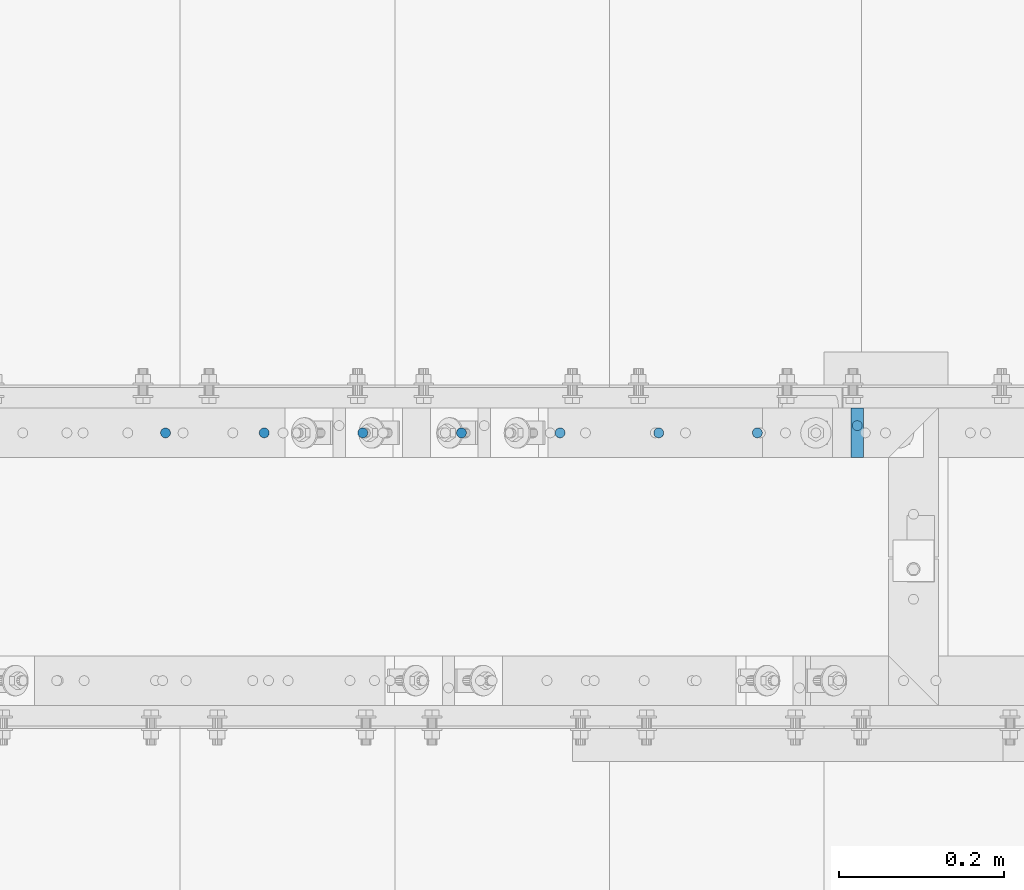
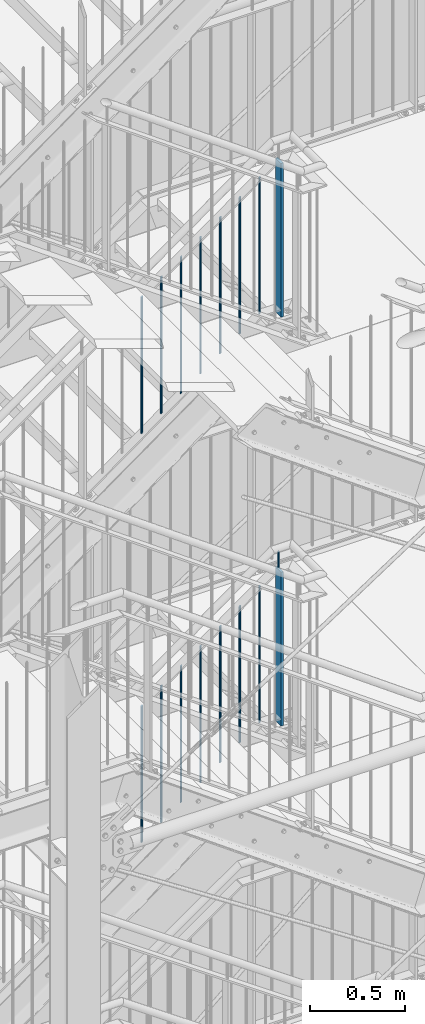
# One storey, part 55 of 821: 17 columns.
"""IFC2X3 building model written with IfcOpenShell, lengths in millimetres."""

from ifc_helpers import new_model, entity, si_unit, converted_unit, frame, origin, origin_with_axes, origin_2d, place, context, project, spatial, rectangle, circle, extrude, clip, halfspace, material, element, save


model = new_model("IFC2X3")

# Units and contexts
model_context = context("Model", 3, precision=1e-09, world=origin_with_axes())
ifc_project = project(units=[si_unit("LENGTHUNIT", "METRE", prefix="MILLI"), si_unit("AREAUNIT", "SQUARE_METRE"), si_unit("VOLUMEUNIT", "CUBIC_METRE"), converted_unit("PLANEANGLEUNIT", "DEGREE", entity("IfcPlaneAngleMeasure", 0.01745329), si_unit("PLANEANGLEUNIT", "RADIAN"), dimensions=[0, 0, 0, 0, 0, 0, 0])], contexts=[model_context])

# Site, building, storey
site_placement = place(None, origin_with_axes())
site = spatial("IfcSite", under=ifc_project, at=site_placement, Name="Cnopf'sche Kinderklinik", CompositionType="ELEMENT")
building_placement = place(site_placement, origin_with_axes())
building = spatial("IfcBuilding", under=site, at=building_placement, Name="Struktur 1", CompositionType="ELEMENT")
storey_placement = place(building_placement, origin_with_axes())
storey = spatial("IfcBuildingStorey", under=building, at=storey_placement, Name="Default Storey", CompositionType="ELEMENT", Elevation=0.0)

# Columns
ifc_material = material(Name="S235JR")
column_1_placement = place(None, frame((7096.714402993, 6091.736971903, 9675.723292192), z_axis=(0.0, 0.0, 1.0), x_axis=(1.0, 0.0, 0.0)))
element("IfcColumn", 1, at=column_1_placement, inside=storey, material=ifc_material, Name="Railing_Post_Landing#2", ObjectType="Railing_Post_Landing#2", context=model_context, shape_type="Clipping", body=[
    clip(clip(extrude(rectangle(XDim=15.0, YDim=60.0, at=origin_2d()), origin(), (0.0, 0.0, -1.0), 1070.646584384), halfspace(frame((-7096.714402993, -6091.736971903, -1019.722292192), z_axis=(0.0, 0.0, 1.0), x_axis=(1.0, 0.0, 0.0)), True)), halfspace(frame((-7096.714402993, -6091.736971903, -30.924292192), z_axis=(0.0, 0.0, -1.0), x_axis=(-1.0, 0.0, 0.0)), True)),
])
column_2_placement = place(None, frame((6259.064027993, 6091.736971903, 9071.207406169), z_axis=(0.0, 0.0, 1.0), x_axis=(1.0, 0.0, 0.0)))
element("IfcColumn", 2, at=column_2_placement, inside=storey, material=ifc_material, Name="Railing_Picket_Stair#11", ObjectType="Railing_Picket_Stair#11", context=model_context, shape_type="Clipping", body=[
    clip(clip(extrude(circle(Radius=6.0, at=origin_2d()), origin(), (0.0, 0.0, -1.0), 896.057999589), halfspace(frame((-8412.354846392, -6091.736971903, -6093.252019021), z_axis=(0.585945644, 0.0, -0.810350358), x_axis=(0.0, 1.0, 0.0)), True)), halfspace(frame((-7996.832455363, -6091.736971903, -6667.910644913), z_axis=(-0.585945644, 0.0, 0.810350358), x_axis=(0.0, -1.0, 0.0)), True)),
])
column_3_placement = place(None, frame((6378.514090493, 6091.736971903, 9157.578989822), z_axis=(0.0, 0.0, 1.0), x_axis=(1.0, 0.0, 0.0)))
element("IfcColumn", 3, at=column_3_placement, inside=storey, material=ifc_material, Name="Railing_Picket_Stair#12", ObjectType="Railing_Picket_Stair#12", context=model_context, shape_type="Clipping", body=[
    clip(clip(extrude(circle(Radius=6.0, at=origin_2d()), origin(), (0.0, 0.0, -1.0), 896.057999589), halfspace(frame((-8531.804908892, -6091.736971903, -6179.623602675), z_axis=(0.585945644, 0.0, -0.810350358), x_axis=(0.0, 1.0, 0.0)), True)), halfspace(frame((-8116.282517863, -6091.736971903, -6754.282228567), z_axis=(-0.585945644, 0.0, 0.810350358), x_axis=(0.0, -1.0, 0.0)), True)),
])
column_4_placement = place(None, frame((6497.964152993, 6091.736971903, 9243.950573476), z_axis=(0.0, 0.0, 1.0), x_axis=(1.0, 0.0, 0.0)))
element("IfcColumn", 4, at=column_4_placement, inside=storey, material=ifc_material, Name="Railing_Picket_Stair#13", ObjectType="Railing_Picket_Stair#13", context=model_context, shape_type="Clipping", body=[
    clip(clip(extrude(circle(Radius=6.0, at=origin_2d()), origin(), (0.0, 0.0, -1.0), 896.057999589), halfspace(frame((-8651.254971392, -6091.736971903, -6265.995186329), z_axis=(0.585945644, 0.0, -0.810350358), x_axis=(0.0, 1.0, 0.0)), True)), halfspace(frame((-8235.732580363, -6091.736971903, -6840.65381222), z_axis=(-0.585945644, 0.0, 0.810350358), x_axis=(0.0, -1.0, 0.0)), True)),
])
column_5_placement = place(None, frame((6617.414215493, 6091.736971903, 9330.32215713), z_axis=(0.0, 0.0, 1.0), x_axis=(1.0, 0.0, 0.0)))
element("IfcColumn", 5, at=column_5_placement, inside=storey, material=ifc_material, Name="Railing_Picket_Stair#14", ObjectType="Railing_Picket_Stair#14", context=model_context, shape_type="Clipping", body=[
    clip(clip(extrude(circle(Radius=6.0, at=origin_2d()), origin(), (0.0, 0.0, -1.0), 896.057999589), halfspace(frame((-8770.705033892, -6091.736971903, -6352.366769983), z_axis=(0.585945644, 0.0, -0.810350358), x_axis=(0.0, 1.0, 0.0)), True)), halfspace(frame((-8355.182642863, -6091.736971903, -6927.025395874), z_axis=(-0.585945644, 0.0, 0.810350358), x_axis=(0.0, -1.0, 0.0)), True)),
])
column_6_placement = place(None, frame((6736.864277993, 6091.736971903, 9416.693740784), z_axis=(0.0, 0.0, 1.0), x_axis=(1.0, 0.0, 0.0)))
element("IfcColumn", 6, at=column_6_placement, inside=storey, material=ifc_material, Name="Railing_Picket_Stair#15", ObjectType="Railing_Picket_Stair#15", context=model_context, shape_type="Clipping", body=[
    clip(clip(extrude(circle(Radius=6.0, at=origin_2d()), origin(), (0.0, 0.0, -1.0), 896.057999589), halfspace(frame((-8890.155096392, -6091.736971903, -6438.738353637), z_axis=(0.585945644, 0.0, -0.810350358), x_axis=(0.0, 1.0, 0.0)), True)), halfspace(frame((-8474.632705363, -6091.736971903, -7013.396979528), z_axis=(-0.585945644, 0.0, 0.810350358), x_axis=(0.0, -1.0, 0.0)), True)),
])
column_7_placement = place(None, frame((6856.314340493, 6091.736971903, 9503.065324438), z_axis=(0.0, 0.0, 1.0), x_axis=(1.0, 0.0, 0.0)))
element("IfcColumn", 7, at=column_7_placement, inside=storey, material=ifc_material, Name="Railing_Picket_Stair#16", ObjectType="Railing_Picket_Stair#16", context=model_context, shape_type="Clipping", body=[
    clip(clip(extrude(circle(Radius=6.0, at=origin_2d()), origin(), (0.0, 0.0, -1.0), 896.057999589), halfspace(frame((-9009.605158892, -6091.736971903, -6525.109937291), z_axis=(0.585945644, 0.0, -0.810350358), x_axis=(0.0, 1.0, 0.0)), True)), halfspace(frame((-8594.082767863, -6091.736971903, -7099.768563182), z_axis=(-0.585945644, 0.0, 0.810350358), x_axis=(0.0, -1.0, 0.0)), True)),
])
column_8_placement = place(None, frame((6975.764402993, 6091.736971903, 9589.436908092), z_axis=(0.0, 0.0, 1.0), x_axis=(1.0, 0.0, 0.0)))
element("IfcColumn", 8, at=column_8_placement, inside=storey, material=ifc_material, Name="Railing_Picket_Stair#17", ObjectType="Railing_Picket_Stair#17", context=model_context, shape_type="Clipping", body=[
    clip(clip(extrude(circle(Radius=6.0, at=origin_2d()), origin(), (0.0, 0.0, -1.0), 896.057999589), halfspace(frame((-9129.055221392, -6091.736971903, -6611.481520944), z_axis=(0.585945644, 0.0, -0.810350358), x_axis=(0.0, 1.0, 0.0)), True)), halfspace(frame((-8713.532830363, -6091.736971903, -7186.140146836), z_axis=(-0.585945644, 0.0, 0.810350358), x_axis=(0.0, -1.0, 0.0)), True)),
])
column_9_placement = place(None, frame((7096.714402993, 6100.536971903, 9763.285281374), z_axis=(0.0, 0.0, 1.0), x_axis=(0.0, -1.0, 0.0)))
element("IfcColumn", 9, at=column_9_placement, inside=storey, material=ifc_material, Name="Bar#2", ObjectType="Bar#2", context=model_context, shape_type="Clipping", body=[
    clip(clip(extrude(circle(Radius=6.0, at=origin_2d()), origin(), (0.0, 0.0, -1.0), 116.970562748), halfspace(frame((6100.536971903, -7096.714402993, -8.486281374), z_axis=(0.0, 0.0, -1.0), x_axis=(0.0, -1.0, 0.0)), True)), halfspace(frame((6100.536971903, -7096.714402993, -108.484281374), z_axis=(0.0, 0.0, 1.0), x_axis=(0.0, 1.0, 0.0)), True)),
])
column_10_placement = place(None, frame((7096.714402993, 6091.736971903, 12305.223292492), z_axis=(0.0, 0.0, 1.0), x_axis=(1.0, 0.0, 0.0)))
element("IfcColumn", 10, at=column_10_placement, inside=storey, material=ifc_material, Name="Railing_Post_Landing#2", ObjectType="Railing_Post_Landing#2", context=model_context, shape_type="Clipping", body=[
    clip(clip(extrude(rectangle(XDim=15.0, YDim=60.0, at=origin_2d()), origin(), (0.0, 0.0, -1.0), 1070.646584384), halfspace(frame((-7096.714402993, -6091.736971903, -1019.722292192), z_axis=(0.0, 0.0, 1.0), x_axis=(1.0, 0.0, 0.0)), True)), halfspace(frame((-7096.714402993, -6091.736971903, -30.924292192), z_axis=(0.0, 0.0, -1.0), x_axis=(-1.0, 0.0, 0.0)), True)),
])
column_11_placement = place(None, frame((6259.064027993, 6091.736971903, 11701.821349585), z_axis=(0.0, 0.0, 1.0), x_axis=(1.0, 0.0, 0.0)))
element("IfcColumn", 11, at=column_11_placement, inside=storey, material=ifc_material, Name="Railing_Picket_Stair#11", ObjectType="Railing_Picket_Stair#11", context=model_context, shape_type="Clipping", body=[
    clip(clip(extrude(circle(Radius=6.0, at=origin_2d()), origin(), (0.0, 0.0, -1.0), 896.125751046), halfspace(frame((-9663.477317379, -6091.736971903, -6984.628974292), z_axis=(0.585213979, 0.0, -0.810878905), x_axis=(0.0, 1.0, 0.0)), True)), halfspace(frame((-9248.164471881, -6091.736971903, -7560.091005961), z_axis=(-0.585213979, 0.0, 0.810878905), x_axis=(0.0, -1.0, 0.0)), True)),
])
column_12_placement = place(None, frame((6378.514090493, 6091.736971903, 11788.028853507), z_axis=(0.0, 0.0, 1.0), x_axis=(1.0, 0.0, 0.0)))
element("IfcColumn", 12, at=column_12_placement, inside=storey, material=ifc_material, Name="Railing_Picket_Stair#12", ObjectType="Railing_Picket_Stair#12", context=model_context, shape_type="Clipping", body=[
    clip(clip(extrude(circle(Radius=6.0, at=origin_2d()), origin(), (0.0, 0.0, -1.0), 896.125751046), halfspace(frame((-9782.927379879, -6091.736971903, -7070.836478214), z_axis=(0.585213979, 0.0, -0.810878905), x_axis=(0.0, 1.0, 0.0)), True)), halfspace(frame((-9367.614534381, -6091.736971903, -7646.298509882), z_axis=(-0.585213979, 0.0, 0.810878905), x_axis=(0.0, -1.0, 0.0)), True)),
])
column_13_placement = place(None, frame((6497.964152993, 6091.736971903, 11874.236357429), z_axis=(0.0, 0.0, 1.0), x_axis=(1.0, 0.0, 0.0)))
element("IfcColumn", 13, at=column_13_placement, inside=storey, material=ifc_material, Name="Railing_Picket_Stair#13", ObjectType="Railing_Picket_Stair#13", context=model_context, shape_type="Clipping", body=[
    clip(clip(extrude(circle(Radius=6.0, at=origin_2d()), origin(), (0.0, 0.0, -1.0), 896.125751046), halfspace(frame((-9902.377442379, -6091.736971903, -7157.043982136), z_axis=(0.585213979, 0.0, -0.810878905), x_axis=(0.0, 1.0, 0.0)), True)), halfspace(frame((-9487.064596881, -6091.736971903, -7732.506013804), z_axis=(-0.585213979, 0.0, 0.810878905), x_axis=(0.0, -1.0, 0.0)), True)),
])
column_14_placement = place(None, frame((6617.414215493, 6091.736971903, 11960.44386135), z_axis=(0.0, 0.0, 1.0), x_axis=(1.0, 0.0, 0.0)))
element("IfcColumn", 14, at=column_14_placement, inside=storey, material=ifc_material, Name="Railing_Picket_Stair#14", ObjectType="Railing_Picket_Stair#14", context=model_context, shape_type="Clipping", body=[
    clip(clip(extrude(circle(Radius=6.0, at=origin_2d()), origin(), (0.0, 0.0, -1.0), 896.125751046), halfspace(frame((-10021.827504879, -6091.736971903, -7243.251486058), z_axis=(0.585213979, 0.0, -0.810878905), x_axis=(0.0, 1.0, 0.0)), True)), halfspace(frame((-9606.514659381, -6091.736971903, -7818.713517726), z_axis=(-0.585213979, 0.0, 0.810878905), x_axis=(0.0, -1.0, 0.0)), True)),
])
column_15_placement = place(None, frame((6736.864277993, 6091.736971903, 12046.651365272), z_axis=(0.0, 0.0, 1.0), x_axis=(1.0, 0.0, 0.0)))
element("IfcColumn", 15, at=column_15_placement, inside=storey, material=ifc_material, Name="Railing_Picket_Stair#15", ObjectType="Railing_Picket_Stair#15", context=model_context, shape_type="Clipping", body=[
    clip(clip(extrude(circle(Radius=6.0, at=origin_2d()), origin(), (0.0, 0.0, -1.0), 896.125751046), halfspace(frame((-10141.277567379, -6091.736971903, -7329.45898998), z_axis=(0.585213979, 0.0, -0.810878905), x_axis=(0.0, 1.0, 0.0)), True)), halfspace(frame((-9725.964721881, -6091.736971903, -7904.921021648), z_axis=(-0.585213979, 0.0, 0.810878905), x_axis=(0.0, -1.0, 0.0)), True)),
])
column_16_placement = place(None, frame((6856.314340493, 6091.736971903, 12132.858869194), z_axis=(0.0, 0.0, 1.0), x_axis=(1.0, 0.0, 0.0)))
element("IfcColumn", 16, at=column_16_placement, inside=storey, material=ifc_material, Name="Railing_Picket_Stair#16", ObjectType="Railing_Picket_Stair#16", context=model_context, shape_type="Clipping", body=[
    clip(clip(extrude(circle(Radius=6.0, at=origin_2d()), origin(), (0.0, 0.0, -1.0), 896.125751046), halfspace(frame((-10260.727629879, -6091.736971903, -7415.666493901), z_axis=(0.585213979, 0.0, -0.810878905), x_axis=(0.0, 1.0, 0.0)), True)), halfspace(frame((-9845.414784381, -6091.736971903, -7991.12852557), z_axis=(-0.585213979, 0.0, 0.810878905), x_axis=(0.0, -1.0, 0.0)), True)),
])
column_17_placement = place(None, frame((6975.764402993, 6091.736971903, 12219.066373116), z_axis=(0.0, 0.0, 1.0), x_axis=(1.0, 0.0, 0.0)))
element("IfcColumn", 17, at=column_17_placement, inside=storey, material=ifc_material, Name="Railing_Picket_Stair#17", ObjectType="Railing_Picket_Stair#17", context=model_context, shape_type="Clipping", body=[
    clip(clip(extrude(circle(Radius=6.0, at=origin_2d()), origin(), (0.0, 0.0, -1.0), 896.125751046), halfspace(frame((-10380.177692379, -6091.736971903, -7501.873997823), z_axis=(0.585213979, 0.0, -0.810878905), x_axis=(0.0, 1.0, 0.0)), True)), halfspace(frame((-9964.864846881, -6091.736971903, -8077.336029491), z_axis=(-0.585213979, 0.0, 0.810878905), x_axis=(0.0, -1.0, 0.0)), True)),
])

save(model, "model.ifc")
